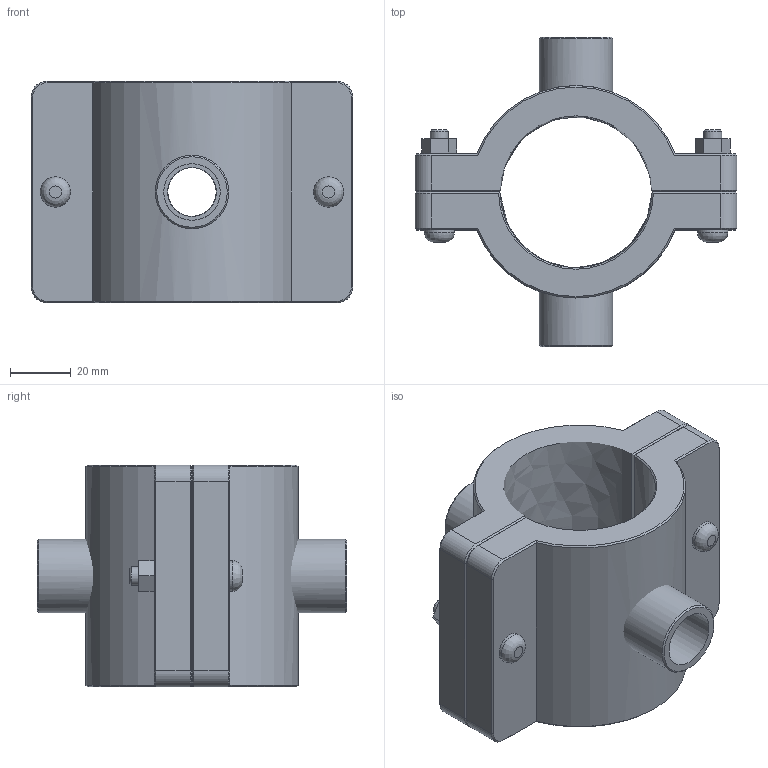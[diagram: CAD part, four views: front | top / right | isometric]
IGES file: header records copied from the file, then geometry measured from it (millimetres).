
Global section: file name: 161760050005_161860050005.ipt; native system: Autodesk Inventor 2015; preprocessor: unknown; author: KIM; date: 20170618.093653; units: millimetre
Bounding box: 106 x 102 x 73 mm (x, y, z)
Volume: 212533.8 mm3; surface area: 54470.4 mm2
Topology: 3 solids, 3 shells, 127 faces, 290 edges, 181 vertices
Faces by surface type: plane 68, cone 24, cylinder 18, revolution 17
Full cylindrical faces by diameter (mm): 6 x2, 10 x4, 24.22 x2
